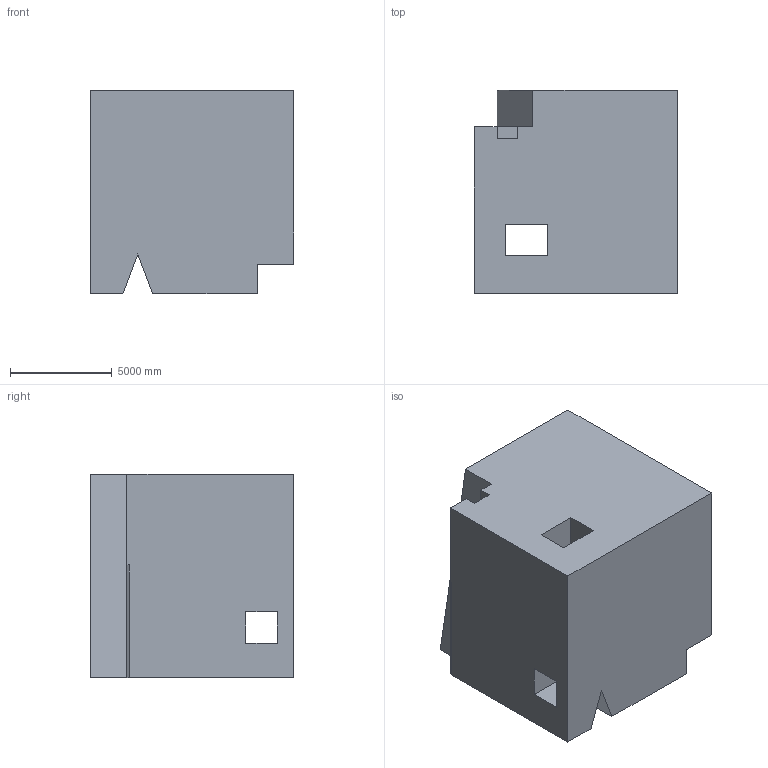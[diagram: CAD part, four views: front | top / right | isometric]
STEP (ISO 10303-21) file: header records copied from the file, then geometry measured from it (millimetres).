
FILE_DESCRIPTION (( 'STEP AP203' ), '1' );
FILE_NAME ('348.STEP', '2022-09-07T15:20:50', ( 'user' ), ( '' ), 'SwSTEP 2.0', 'SolidWorks 2021', '' );
FILE_SCHEMA (( 'CONFIG_CONTROL_DESIGN' ));
Length unit declared in the file: centimetre
Products named in the file (1): 348
Bounding box: 10000 x 10000 x 10000 mm (x, y, z)
Volume: 867578894234.5 mm3; surface area: 729929760.6 mm2
Topology: 1 solids, 1 shells, 37 faces, 111 edges, 74 vertices
Faces by surface type: plane 37
Entity records: 1314 total; most frequent: CARTESIAN_POINT 223, ORIENTED_EDGE 222, DIRECTION 187, VECTOR 111, LINE 111, EDGE_CURVE 111, VERTEX_POINT 74, EDGE_LOOP 41
